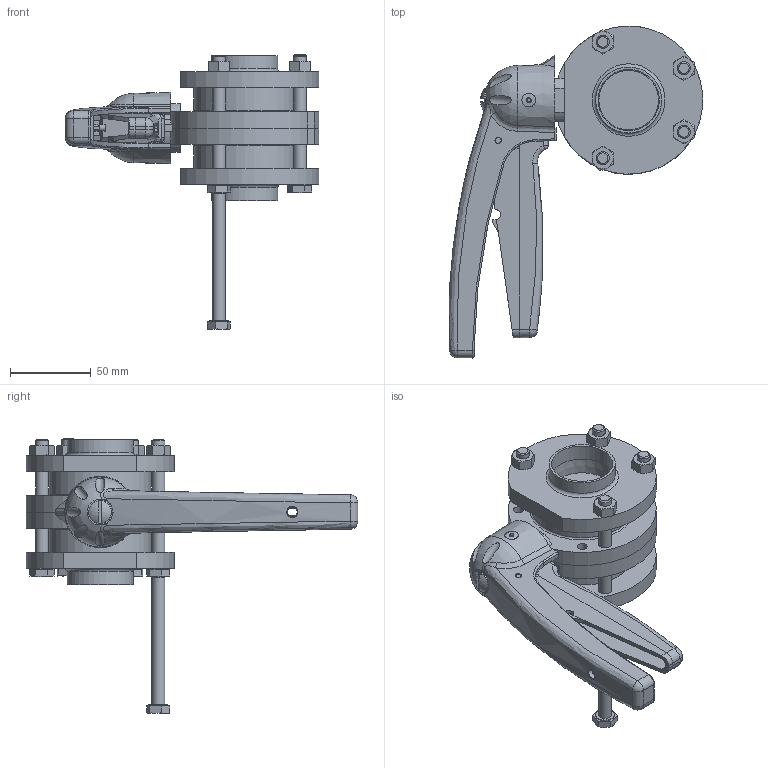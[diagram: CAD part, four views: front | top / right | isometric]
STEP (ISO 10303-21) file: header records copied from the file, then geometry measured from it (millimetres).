
FILE_DESCRIPTION(/* description */ ('VVF VALV.FARF.DN40(41X1.5) WAF4 316 EPDM LEVA 5POS.'),/* implementation_level */ '2;1');
FILE_NAME(/* name */ 'BEBAC6040BEAA-00^SAGOMA.step',/* time_stamp */ '2026-07-09T10:24:00+02:00',/* author */ (''),/* organization */ (''),/* preprocessor_version */ 'ST-DEVELOPER v20.1',/* originating_system */ 'Autodesk Inventor 2026',/* authorisation */ '');
FILE_SCHEMA (('CONFIG_CONTROL_DESIGN'));
Length unit declared in the file: millimetre
Products named in the file (6): BEBAC6040BEAA; MEZZO-COR-DN040-WAFER-4; FLANGIA-DN41x1.5-WAFER-4; UNI 5588 - M8; Maniglia-5-posizioni-nuova-versione finale 01-2008- 25 - - 65; UNI 5739 - M8 x 80
Assembly tree (14 placements, depth 2):
  BEBAC6040BEAA
    FLANGIA-DN41x1.5-WAFER-4  x2
    MEZZO-COR-DN040-WAFER-4  x2
    UNI 5739 - M8 x 80  x5
    UNI 5588 - M8  x4
    Maniglia-5-posizioni-nuova-versione finale 01-2008- 25 - - 65
Bounding box: 157.4 x 205.99 x 170.6 mm (x, y, z)
Volume: 449148.1 mm3; surface area: 143752 mm2
Topology: 14 solids, 15 shells, 651 faces, 1588 edges, 992 vertices
Faces by surface type: plane 288, cylinder 130, cone 121, bspline 81, sphere 18, torus 13
Full cylindrical faces by diameter (mm): 4 x3, 6 x2, 6.2 x4, 6.5 x1, 6.647 x4, 8 x5, 8.5 x12, 11.63 x5, 13 x1, 14.5 x1, 38 x2, 41 x2, 63 x2
Entity records: 23857 total; most frequent: CARTESIAN_POINT 12296, ORIENTED_EDGE 2422, DIRECTION 2102, EDGE_CURVE 1211, VERTEX_POINT 764, AXIS2_PLACEMENT_3D 763, LINE 576, VECTOR 576
